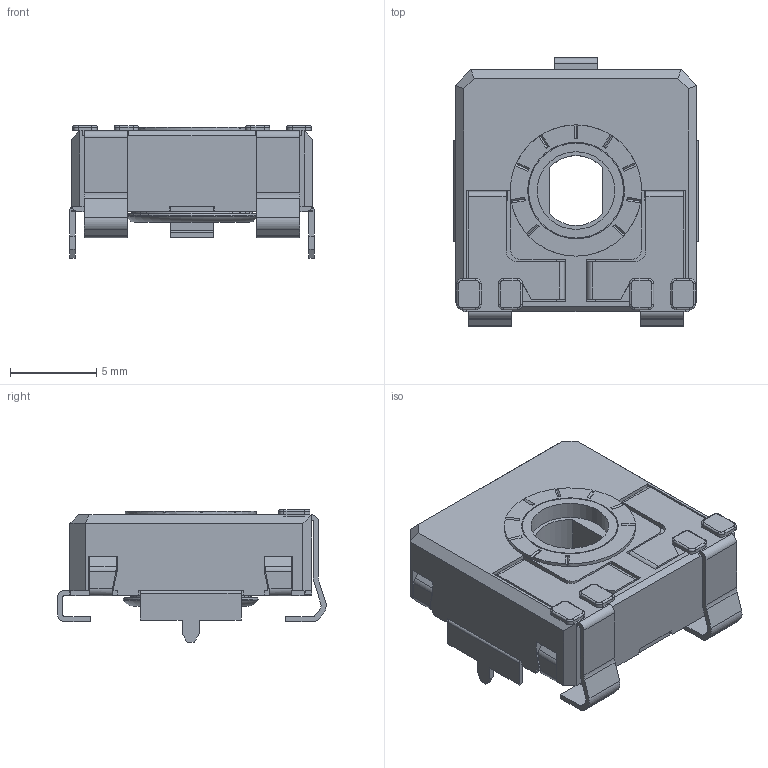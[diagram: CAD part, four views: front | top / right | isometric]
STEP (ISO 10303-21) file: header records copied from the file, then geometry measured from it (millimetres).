
FILE_DESCRIPTION(/* description */ (''),/* implementation_level */ '2;1');
FILE_NAME(/* name */ 'C:\Users\CEM\Desktop\ENVIAR\TRANSICION 3D CATALOGOS\RS14ZVSMD CY.stp',/* time_stamp */ '2025-12-10T12:17:43+01:00',/* author */ ('CEM'),/* organization */ (''),/* preprocessor_version */ 'ST-DEVELOPER v16.13',/* originating_system */ 'Autodesk Inventor 2018',/* authorisation */ '');
FILE_SCHEMA (('AUTOMOTIVE_DESIGN { 1 0 10303 214 3 1 1 }'));
Length unit declared in the file: millimetre
Products named in the file (1): CARCASA CA14 PGA
Bounding box: 14.15 x 15.55 x 7.7 mm (x, y, z)
Volume: 539.6 mm3; surface area: 1505.5 mm2
Topology: 1 solids, 1 shells, 569 faces, 1608 edges, 1027 vertices
Faces by surface type: plane 422, cylinder 110, torus 23, bspline 8, cone 6
Full cylindrical faces by diameter (mm): 4.5 x1, 5.1 x1, 5.5 x1, 5.6 x1, 5.752 x1, 6.8 x1, 7.6 x1
Entity records: 18496 total; most frequent: CARTESIAN_POINT 3394, ORIENTED_EDGE 3182, DIRECTION 2990, EDGE_CURVE 1591, LINE 1260, VECTOR 1260, VERTEX_POINT 1021, AXIS2_PLACEMENT_3D 865
